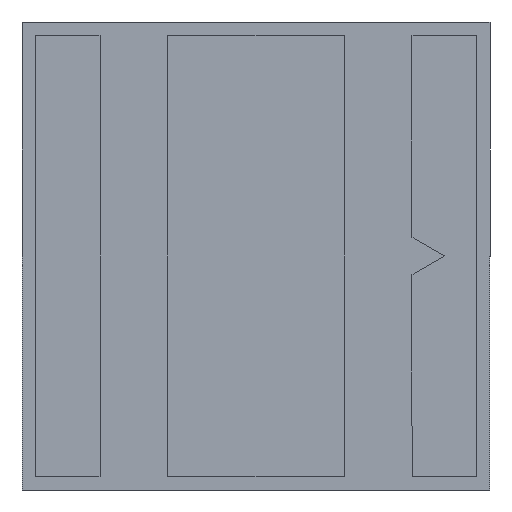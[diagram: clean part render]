
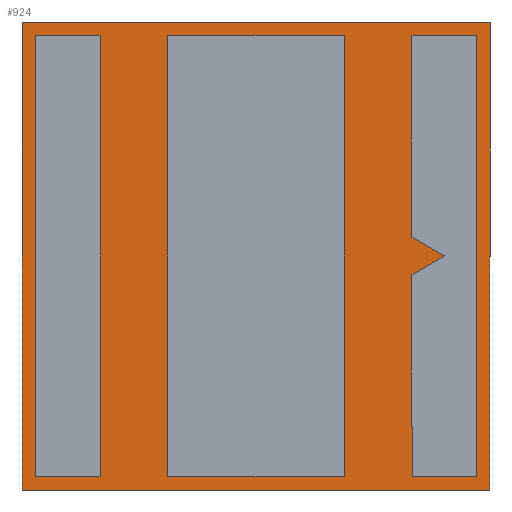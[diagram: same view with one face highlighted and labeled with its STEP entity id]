
A CAD part, front view. The second image highlights one B-rep face of the part: STEP entity #924.
In plain terms, the highlighted planar face has unit normal (0, -1, 0).
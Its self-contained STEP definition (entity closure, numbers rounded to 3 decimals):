
#14 = DIRECTION ( 'NONE',  ( 0., 0., 1. ) ) ;
#23 = LINE ( 'NONE', #231, #387 ) ;
#25 = CARTESIAN_POINT ( 'NONE',  ( 1.15, 0., 1.625 ) ) ;
#30 = VERTEX_POINT ( 'NONE', #794 ) ;
#36 = VECTOR ( 'NONE', #243, 1000. ) ;
#44 = DIRECTION ( 'NONE',  ( -1., 0., 0. ) ) ;
#45 = ORIENTED_EDGE ( 'NONE', *, *, #793, .F. ) ;
#62 = CARTESIAN_POINT ( 'NONE',  ( -1.725, 0., -1.725 ) ) ;
#63 = LINE ( 'NONE', #983, #701 ) ;
#64 = CARTESIAN_POINT ( 'NONE',  ( 0.65, 0., 1.625 ) ) ;
#66 = CARTESIAN_POINT ( 'NONE',  ( 0.65, 0., 1.625 ) ) ;
#67 = VERTEX_POINT ( 'NONE', #812 ) ;
#70 = VERTEX_POINT ( 'NONE', #260 ) ;
#77 = CARTESIAN_POINT ( 'NONE',  ( 1.725, 0., -1.725 ) ) ;
#80 = VERTEX_POINT ( 'NONE', #177 ) ;
#107 = CARTESIAN_POINT ( 'NONE',  ( -1.725, 0., -1.725 ) ) ;
#117 = VECTOR ( 'NONE', #623, 1000. ) ;
#120 = DIRECTION ( 'NONE',  ( -0.866, 0., -0.5 ) ) ;
#136 = ORIENTED_EDGE ( 'NONE', *, *, #820, .F. ) ;
#139 = ORIENTED_EDGE ( 'NONE', *, *, #985, .F. ) ;
#141 = LINE ( 'NONE', #876, #546 ) ;
#154 = VECTOR ( 'NONE', #730, 1000. ) ;
#165 = LINE ( 'NONE', #914, #840 ) ;
#177 = CARTESIAN_POINT ( 'NONE',  ( 1.387, 0., 0. ) ) ;
#178 = LINE ( 'NONE', #810, #992 ) ;
#196 = ORIENTED_EDGE ( 'NONE', *, *, #729, .F. ) ;
#201 = FACE_BOUND ( 'NONE', #670, .T. ) ;
#204 = VECTOR ( 'NONE', #923, 1000. ) ;
#208 = ORIENTED_EDGE ( 'NONE', *, *, #848, .F. ) ;
#227 = EDGE_CURVE ( 'NONE', #495, #822, #600, .T. ) ;
#231 = CARTESIAN_POINT ( 'NONE',  ( -1.15, 0., 1.625 ) ) ;
#238 = LINE ( 'NONE', #826, #304 ) ;
#240 = LINE ( 'NONE', #321, #36 ) ;
#241 = DIRECTION ( 'NONE',  ( 1., 0., 0. ) ) ;
#242 = LINE ( 'NONE', #359, #537 ) ;
#243 = DIRECTION ( 'NONE',  ( -1., 0., 0. ) ) ;
#244 = CARTESIAN_POINT ( 'NONE',  ( -1.625, 0., -1.625 ) ) ;
#252 = DIRECTION ( 'NONE',  ( 0., 0., 1. ) ) ;
#257 = EDGE_CURVE ( 'NONE', #529, #581, #63, .T. ) ;
#259 = DIRECTION ( 'NONE',  ( 0., 0., -1. ) ) ;
#260 = CARTESIAN_POINT ( 'NONE',  ( -1.725, 0., 1.725 ) ) ;
#262 = EDGE_CURVE ( 'NONE', #343, #30, #165, .T. ) ;
#267 = VECTOR ( 'NONE', #335, 1000. ) ;
#284 = EDGE_CURVE ( 'NONE', #67, #939, #242, .T. ) ;
#304 = VECTOR ( 'NONE', #120, 1000. ) ;
#312 = ORIENTED_EDGE ( 'NONE', *, *, #257, .F. ) ;
#314 = ORIENTED_EDGE ( 'NONE', *, *, #703, .F. ) ;
#321 = CARTESIAN_POINT ( 'NONE',  ( 1.625, 0., 1.625 ) ) ;
#322 = CARTESIAN_POINT ( 'NONE',  ( 1.625, 0., 1.625 ) ) ;
#335 = DIRECTION ( 'NONE',  ( -1., 0., 0. ) ) ;
#339 = LINE ( 'NONE', #853, #559 ) ;
#343 = VERTEX_POINT ( 'NONE', #66 ) ;
#344 = ORIENTED_EDGE ( 'NONE', *, *, #563, .F. ) ;
#359 = CARTESIAN_POINT ( 'NONE',  ( -1.15, 0., 1.625 ) ) ;
#368 = VERTEX_POINT ( 'NONE', #928 ) ;
#383 = ORIENTED_EDGE ( 'NONE', *, *, #777, .F. ) ;
#387 = VECTOR ( 'NONE', #14, 1000. ) ;
#389 = CARTESIAN_POINT ( 'NONE',  ( 1.15, 0., 0.137 ) ) ;
#404 = CARTESIAN_POINT ( 'NONE',  ( 1.625, 0., -1.625 ) ) ;
#416 = EDGE_CURVE ( 'NONE', #581, #343, #862, .T. ) ;
#429 = DIRECTION ( 'NONE',  ( 1., 0., 0. ) ) ;
#443 = VERTEX_POINT ( 'NONE', #62 ) ;
#447 = VECTOR ( 'NONE', #564, 1000. ) ;
#456 = DIRECTION ( 'NONE',  ( 0., 0., 1. ) ) ;
#457 = EDGE_CURVE ( 'NONE', #640, #591, #339, .T. ) ;
#480 = EDGE_LOOP ( 'NONE', ( #770, #314, #139, #630, #136, #196, #528 ) ) ;
#481 = CARTESIAN_POINT ( 'NONE',  ( 1.15, 0., 1.625 ) ) ;
#482 = EDGE_CURVE ( 'NONE', #626, #990, #536, .T. ) ;
#492 = CARTESIAN_POINT ( 'NONE',  ( 0., 0., 0. ) ) ;
#495 = VERTEX_POINT ( 'NONE', #865 ) ;
#504 = ORIENTED_EDGE ( 'NONE', *, *, #482, .F. ) ;
#509 = FACE_OUTER_BOUND ( 'NONE', #1000, .T. ) ;
#521 = VECTOR ( 'NONE', #259, 1000. ) ;
#528 = ORIENTED_EDGE ( 'NONE', *, *, #457, .F. ) ;
#529 = VERTEX_POINT ( 'NONE', #798 ) ;
#536 = LINE ( 'NONE', #859, #117 ) ;
#537 = VECTOR ( 'NONE', #755, 1000. ) ;
#541 = EDGE_LOOP ( 'NONE', ( #758, #45, #504, #344 ) ) ;
#546 = VECTOR ( 'NONE', #241, 1000. ) ;
#559 = VECTOR ( 'NONE', #456, 1000. ) ;
#562 = CARTESIAN_POINT ( 'NONE',  ( -0.65, 0., 1.625 ) ) ;
#563 = EDGE_CURVE ( 'NONE', #939, #626, #659, .T. ) ;
#564 = DIRECTION ( 'NONE',  ( 0., 0., -1. ) ) ;
#566 = VERTEX_POINT ( 'NONE', #389 ) ;
#568 = PLANE ( 'NONE',  #607 ) ;
#571 = DIRECTION ( 'NONE',  ( 0., 0., 1. ) ) ;
#580 = VERTEX_POINT ( 'NONE', #944 ) ;
#581 = VERTEX_POINT ( 'NONE', #627 ) ;
#591 = VERTEX_POINT ( 'NONE', #322 ) ;
#600 = LINE ( 'NONE', #830, #1005 ) ;
#607 = AXIS2_PLACEMENT_3D ( 'NONE', #492, #728, #571 ) ;
#619 = LINE ( 'NONE', #879, #154 ) ;
#622 = DIRECTION ( 'NONE',  ( 0., 0., -1. ) ) ;
#623 = DIRECTION ( 'NONE',  ( 1., 0., 0. ) ) ;
#626 = VERTEX_POINT ( 'NONE', #244 ) ;
#627 = CARTESIAN_POINT ( 'NONE',  ( 0.65, 0., -1.625 ) ) ;
#628 = EDGE_CURVE ( 'NONE', #580, #640, #619, .T. ) ;
#630 = ORIENTED_EDGE ( 'NONE', *, *, #905, .F. ) ;
#640 = VERTEX_POINT ( 'NONE', #404 ) ;
#645 = VECTOR ( 'NONE', #252, 1000. ) ;
#649 = EDGE_CURVE ( 'NONE', #443, #70, #921, .T. ) ;
#656 = ORIENTED_EDGE ( 'NONE', *, *, #262, .F. ) ;
#659 = LINE ( 'NONE', #792, #801 ) ;
#670 = EDGE_LOOP ( 'NONE', ( #656, #867, #312, #208 ) ) ;
#677 = CARTESIAN_POINT ( 'NONE',  ( -1.15, 0., -1.625 ) ) ;
#679 = DIRECTION ( 'NONE',  ( 0., 0., -1. ) ) ;
#701 = VECTOR ( 'NONE', #429, 1000. ) ;
#703 = EDGE_CURVE ( 'NONE', #368, #580, #813, .T. ) ;
#710 = FACE_BOUND ( 'NONE', #541, .T. ) ;
#721 = ORIENTED_EDGE ( 'NONE', *, *, #227, .F. ) ;
#726 = LINE ( 'NONE', #107, #267 ) ;
#728 = DIRECTION ( 'NONE',  ( 0., 1., 0. ) ) ;
#729 = EDGE_CURVE ( 'NONE', #591, #918, #240, .T. ) ;
#730 = DIRECTION ( 'NONE',  ( 1., 0., 0. ) ) ;
#737 = FACE_BOUND ( 'NONE', #480, .T. ) ;
#738 = DIRECTION ( 'NONE',  ( 0.866, 0., -0.5 ) ) ;
#739 = VECTOR ( 'NONE', #622, 1000. ) ;
#755 = DIRECTION ( 'NONE',  ( -1., 0., 0. ) ) ;
#758 = ORIENTED_EDGE ( 'NONE', *, *, #284, .F. ) ;
#770 = ORIENTED_EDGE ( 'NONE', *, *, #628, .F. ) ;
#777 = EDGE_CURVE ( 'NONE', #70, #495, #141, .T. ) ;
#792 = CARTESIAN_POINT ( 'NONE',  ( -1.625, 0., 1.625 ) ) ;
#793 = EDGE_CURVE ( 'NONE', #990, #67, #23, .T. ) ;
#794 = CARTESIAN_POINT ( 'NONE',  ( -0.65, 0., 1.625 ) ) ;
#798 = CARTESIAN_POINT ( 'NONE',  ( -0.65, 0., -1.625 ) ) ;
#799 = ORIENTED_EDGE ( 'NONE', *, *, #649, .F. ) ;
#801 = VECTOR ( 'NONE', #868, 1000. ) ;
#810 = CARTESIAN_POINT ( 'NONE',  ( 1.387, 0., 0. ) ) ;
#812 = CARTESIAN_POINT ( 'NONE',  ( -1.15, 0., 1.625 ) ) ;
#813 = LINE ( 'NONE', #960, #447 ) ;
#820 = EDGE_CURVE ( 'NONE', #918, #566, #943, .T. ) ;
#822 = VERTEX_POINT ( 'NONE', #77 ) ;
#826 = CARTESIAN_POINT ( 'NONE',  ( 1.387, 0., 0. ) ) ;
#830 = CARTESIAN_POINT ( 'NONE',  ( 1.725, 0., -1.725 ) ) ;
#840 = VECTOR ( 'NONE', #44, 1000. ) ;
#848 = EDGE_CURVE ( 'NONE', #30, #529, #931, .T. ) ;
#853 = CARTESIAN_POINT ( 'NONE',  ( 1.625, 0., -1.625 ) ) ;
#859 = CARTESIAN_POINT ( 'NONE',  ( -1.625, 0., -1.625 ) ) ;
#862 = LINE ( 'NONE', #64, #204 ) ;
#865 = CARTESIAN_POINT ( 'NONE',  ( 1.725, 0., 1.725 ) ) ;
#867 = ORIENTED_EDGE ( 'NONE', *, *, #416, .F. ) ;
#868 = DIRECTION ( 'NONE',  ( 0., 0., -1. ) ) ;
#876 = CARTESIAN_POINT ( 'NONE',  ( -1.725, 0., 1.725 ) ) ;
#879 = CARTESIAN_POINT ( 'NONE',  ( 1.15, 0., -1.625 ) ) ;
#889 = CARTESIAN_POINT ( 'NONE',  ( -1.625, 0., 1.625 ) ) ;
#905 = EDGE_CURVE ( 'NONE', #566, #80, #178, .T. ) ;
#914 = CARTESIAN_POINT ( 'NONE',  ( 0.65, 0., 1.625 ) ) ;
#916 = EDGE_CURVE ( 'NONE', #822, #443, #726, .T. ) ;
#918 = VERTEX_POINT ( 'NONE', #25 ) ;
#921 = LINE ( 'NONE', #955, #645 ) ;
#923 = DIRECTION ( 'NONE',  ( 0., 0., 1. ) ) ;
#924 = ADVANCED_FACE ( 'NONE', ( #710, #509, #201, #737 ), #568, .F. ) ;
#928 = CARTESIAN_POINT ( 'NONE',  ( 1.15, 0., -0.137 ) ) ;
#931 = LINE ( 'NONE', #562, #521 ) ;
#939 = VERTEX_POINT ( 'NONE', #889 ) ;
#943 = LINE ( 'NONE', #481, #739 ) ;
#944 = CARTESIAN_POINT ( 'NONE',  ( 1.15, 0., -1.625 ) ) ;
#955 = CARTESIAN_POINT ( 'NONE',  ( -1.725, 0., -1.725 ) ) ;
#960 = CARTESIAN_POINT ( 'NONE',  ( 1.15, 0., -0.137 ) ) ;
#983 = CARTESIAN_POINT ( 'NONE',  ( -0.65, 0., -1.625 ) ) ;
#985 = EDGE_CURVE ( 'NONE', #80, #368, #238, .T. ) ;
#990 = VERTEX_POINT ( 'NONE', #677 ) ;
#992 = VECTOR ( 'NONE', #738, 1000. ) ;
#999 = ORIENTED_EDGE ( 'NONE', *, *, #916, .F. ) ;
#1000 = EDGE_LOOP ( 'NONE', ( #799, #999, #721, #383 ) ) ;
#1005 = VECTOR ( 'NONE', #679, 1000. ) ;
